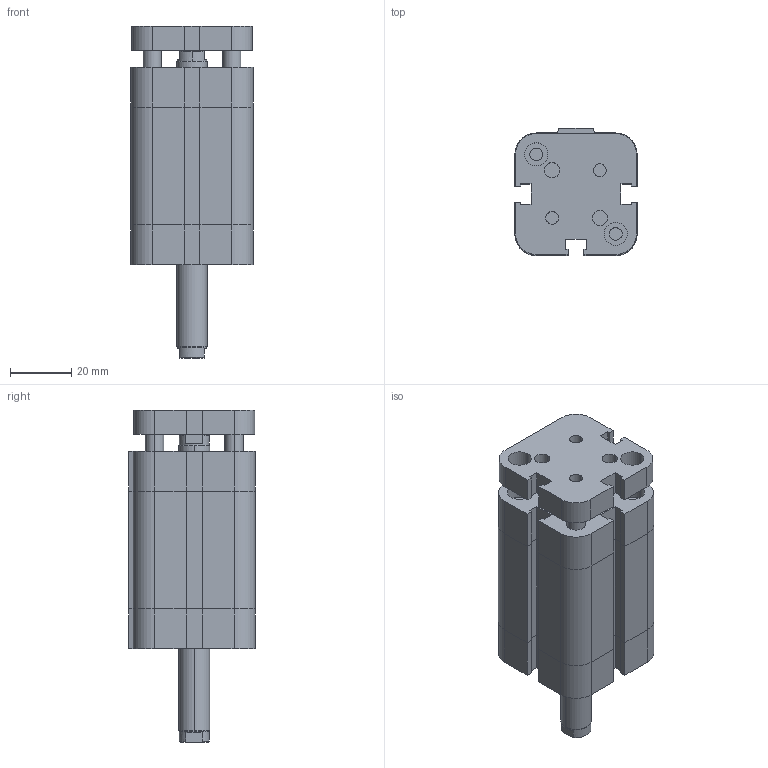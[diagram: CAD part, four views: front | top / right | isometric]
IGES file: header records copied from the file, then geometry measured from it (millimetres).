
Global section: file name: No Iges File Name specified; native system: Autodesk Inventor 2009; preprocessor: AutoDesk Inventor Iges Exporter R2009; author: maffial1; date: 20090420.202020; units: millimetre
Bounding box: 40 x 41.5 x 108.5 mm (x, y, z)
Volume: 106942.7 mm3; surface area: 29709.9 mm2
Topology: 2 solids, 2 shells, 241 faces, 570 edges, 354 vertices
Faces by surface type: plane 135, bspline 72, cylinder 26, cone 8
